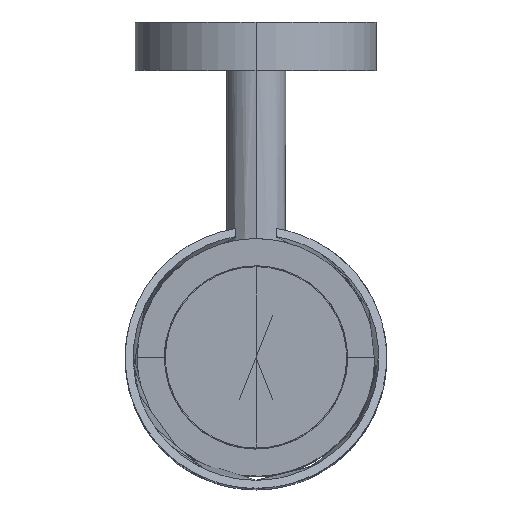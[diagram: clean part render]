
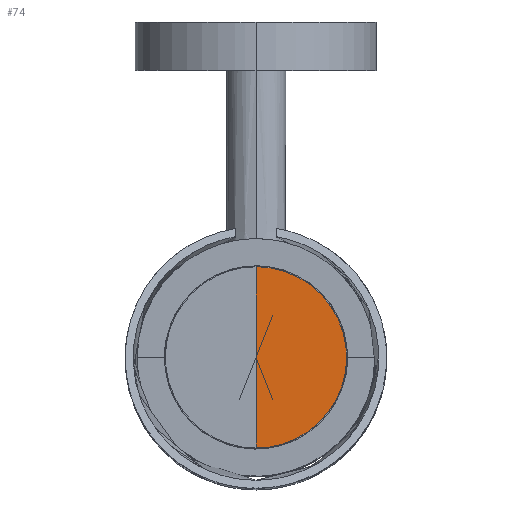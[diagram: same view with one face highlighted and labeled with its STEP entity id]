
A CAD part, top view. The second image highlights one B-rep face of the part: STEP entity #74.
In plain terms, the highlighted free-form (B-spline) face has degree [1, 2] with [2, 5] control points.
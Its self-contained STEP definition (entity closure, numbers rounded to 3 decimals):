
#74=ADVANCED_FACE('',(#335),#7578,.T.);
#335=FACE_OUTER_BOUND('',#596,.T.);
#596=EDGE_LOOP('',(#867,#868,#869));
#867=ORIENTED_EDGE('',*,*,#6356,.T.);
#868=ORIENTED_EDGE('',*,*,#6357,.T.);
#869=ORIENTED_EDGE('',*,*,#6358,.T.);
#2029=PCURVE('',#7578,#3191);
#2030=PCURVE('',#7578,#3192);
#2031=PCURVE('',#7578,#3193);
#2032=PCURVE('',#7579,#3194);
#2047=PCURVE('',#7583,#3209);
#2049=PCURVE('',#7583,#3211);
#3191=DEFINITIONAL_REPRESENTATION('',(#4356),#18636);
#3192=DEFINITIONAL_REPRESENTATION('',(#4357),#18636);
#3193=DEFINITIONAL_REPRESENTATION('',(#4359),#18636);
#3194=DEFINITIONAL_REPRESENTATION('',(#4360),#18636);
#3209=DEFINITIONAL_REPRESENTATION('',(#4381),#18636);
#3211=DEFINITIONAL_REPRESENTATION('',(#4383),#18636);
#4355=B_SPLINE_CURVE_WITH_KNOTS('',1,(#8030,#8031),.UNSPECIFIED.,.F.,.F.,
(2,2),(-28.65,-6.15),.UNSPECIFIED.);
#4356=B_SPLINE_CURVE_WITH_KNOTS('',1,(#8032,#8033),.UNSPECIFIED.,.F.,.F.,
(2,2),(-28.65,-6.15),.UNSPECIFIED.);
#4357=B_SPLINE_CURVE_WITH_KNOTS('',1,(#8039,#8040),.UNSPECIFIED.,.F.,.F.,
(2,2),(0.,30.15),.UNSPECIFIED.);
#4358=B_SPLINE_CURVE_WITH_KNOTS('',1,(#8041,#8042),.UNSPECIFIED.,.F.,.F.,
(2,2),(6.15,28.65),.UNSPECIFIED.);
#4359=B_SPLINE_CURVE_WITH_KNOTS('',1,(#8043,#8044),.UNSPECIFIED.,.F.,.F.,
(2,2),(6.15,28.65),.UNSPECIFIED.);
#4360=B_SPLINE_CURVE_WITH_KNOTS('',1,(#8045,#8046),.UNSPECIFIED.,.F.,.F.,
(2,2),(0.,30.15),.UNSPECIFIED.);
#4381=B_SPLINE_CURVE_WITH_KNOTS('',1,(#8102,#8103),.UNSPECIFIED.,.F.,.F.,
(2,2),(6.15,28.65),.UNSPECIFIED.);
#4383=B_SPLINE_CURVE_WITH_KNOTS('',1,(#8111,#8112),.UNSPECIFIED.,.F.,.F.,
(2,2),(-28.65,-6.15),.UNSPECIFIED.);
#5775=SURFACE_CURVE('',#4355,(#2029,#2049),.PCURVE_S1.);
#5776=SURFACE_CURVE('',#6935,(#2030,#2032),.PCURVE_S1.);
#5777=SURFACE_CURVE('',#4358,(#2031,#2047),.PCURVE_S1.);
#6356=EDGE_CURVE('',#7255,#7260,#5775,.T.);
#6357=EDGE_CURVE('',#7260,#7262,#5776,.T.);
#6358=EDGE_CURVE('',#7262,#7255,#5777,.T.);
#6935=(
BOUNDED_CURVE()
B_SPLINE_CURVE(2,(#8034,#8035,#8036,#8037,#8038),.UNSPECIFIED.,.F.,.F.)
B_SPLINE_CURVE_WITH_KNOTS((3,2,3),(0.,15.075,30.15),
 .UNSPECIFIED.)
CURVE()
GEOMETRIC_REPRESENTATION_ITEM()
RATIONAL_B_SPLINE_CURVE((1.,0.707,1.,0.707,1.))
REPRESENTATION_ITEM('')
);
#7255=VERTEX_POINT('',#8005);
#7260=VERTEX_POINT('',#8010);
#7262=VERTEX_POINT('',#8012);
#7578=(
BOUNDED_SURFACE()
B_SPLINE_SURFACE(1,2,((#7915,#7916,#7917,#7918,#7919),(#7920,#7921,#7922,
#7923,#7924)),.UNSPECIFIED.,.F.,.F.,.F.)
B_SPLINE_SURFACE_WITH_KNOTS((2,2),(3,2,3),(-28.65,-6.15),
(0.,15.075,30.15),.UNSPECIFIED.)
GEOMETRIC_REPRESENTATION_ITEM()
RATIONAL_B_SPLINE_SURFACE(((1.,0.707,1.,0.707,1.),
(1.,0.707,1.,0.707,1.)))
REPRESENTATION_ITEM('')
SURFACE()
);
#7579=(
BOUNDED_SURFACE()
B_SPLINE_SURFACE(1,2,((#7925,#7926,#7927,#7928,#7929),(#7930,#7931,#7932,
#7933,#7934)),.UNSPECIFIED.,.F.,.F.,.F.)
B_SPLINE_SURFACE_WITH_KNOTS((2,2),(3,2,3),(-6.15,-3.65),
(0.,15.075,30.15),.UNSPECIFIED.)
GEOMETRIC_REPRESENTATION_ITEM()
RATIONAL_B_SPLINE_SURFACE(((1.,0.707,1.,0.707,1.),
(1.,0.707,1.,0.707,1.)))
REPRESENTATION_ITEM('')
SURFACE()
);
#7583=(
BOUNDED_SURFACE()
B_SPLINE_SURFACE(1,2,((#7965,#7966,#7967,#7968,#7969),(#7970,#7971,#7972,
#7973,#7974)),.UNSPECIFIED.,.F.,.F.,.F.)
B_SPLINE_SURFACE_WITH_KNOTS((2,2),(3,2,3),(-28.65,-6.15),
(30.15,45.225,60.3),.UNSPECIFIED.)
GEOMETRIC_REPRESENTATION_ITEM()
RATIONAL_B_SPLINE_SURFACE(((1.,0.707,1.,0.707,1.),
(1.,0.707,1.,0.707,1.)))
REPRESENTATION_ITEM('')
SURFACE()
);
#7915=CARTESIAN_POINT('',(0.,-83.345,59.445));
#7916=CARTESIAN_POINT('',(0.,-83.345,59.445));
#7917=CARTESIAN_POINT('',(0.,-83.345,59.445));
#7918=CARTESIAN_POINT('',(0.,-83.345,59.445));
#7919=CARTESIAN_POINT('',(0.,-83.345,59.445));
#7920=CARTESIAN_POINT('',(0.,-105.845,59.445));
#7921=CARTESIAN_POINT('',(22.5,-105.845,59.445));
#7922=CARTESIAN_POINT('',(22.5,-83.345,59.445));
#7923=CARTESIAN_POINT('',(22.5,-60.845,59.445));
#7924=CARTESIAN_POINT('',(0.,-60.845,59.445));
#7925=CARTESIAN_POINT('',(0.,-105.845,59.445));
#7926=CARTESIAN_POINT('',(22.5,-105.845,59.445));
#7927=CARTESIAN_POINT('',(22.5,-83.345,59.445));
#7928=CARTESIAN_POINT('',(22.5,-60.845,59.445));
#7929=CARTESIAN_POINT('',(0.,-60.845,59.445));
#7930=CARTESIAN_POINT('',(0.,-105.845,56.945));
#7931=CARTESIAN_POINT('',(22.5,-105.845,56.945));
#7932=CARTESIAN_POINT('',(22.5,-83.345,56.945));
#7933=CARTESIAN_POINT('',(22.5,-60.845,56.945));
#7934=CARTESIAN_POINT('',(0.,-60.845,56.945));
#7965=CARTESIAN_POINT('',(0.,-83.345,59.445));
#7966=CARTESIAN_POINT('',(0.,-83.345,59.445));
#7967=CARTESIAN_POINT('',(0.,-83.345,59.445));
#7968=CARTESIAN_POINT('',(0.,-83.345,59.445));
#7969=CARTESIAN_POINT('',(0.,-83.345,59.445));
#7970=CARTESIAN_POINT('',(0.,-60.845,59.445));
#7971=CARTESIAN_POINT('',(-22.5,-60.845,59.445));
#7972=CARTESIAN_POINT('',(-22.5,-83.345,59.445));
#7973=CARTESIAN_POINT('',(-22.5,-105.845,59.445));
#7974=CARTESIAN_POINT('',(0.,-105.845,59.445));
#8005=CARTESIAN_POINT('',(0.,-83.345,59.445));
#8010=CARTESIAN_POINT('',(0.,-105.845,59.445));
#8012=CARTESIAN_POINT('',(0.,-60.845,59.445));
#8030=CARTESIAN_POINT('',(0.,-83.345,59.445));
#8031=CARTESIAN_POINT('',(0.,-105.845,59.445));
#8032=CARTESIAN_POINT('',(-28.65,0.));
#8033=CARTESIAN_POINT('',(-6.15,0.));
#8034=CARTESIAN_POINT('',(0.,-105.845,59.445));
#8035=CARTESIAN_POINT('',(22.5,-105.845,59.445));
#8036=CARTESIAN_POINT('',(22.5,-83.345,59.445));
#8037=CARTESIAN_POINT('',(22.5,-60.845,59.445));
#8038=CARTESIAN_POINT('',(0.,-60.845,59.445));
#8039=CARTESIAN_POINT('',(-6.15,0.));
#8040=CARTESIAN_POINT('',(-6.15,30.15));
#8041=CARTESIAN_POINT('',(0.,-60.845,59.445));
#8042=CARTESIAN_POINT('',(0.,-83.345,59.445));
#8043=CARTESIAN_POINT('',(-6.15,30.15));
#8044=CARTESIAN_POINT('',(-28.65,30.15));
#8045=CARTESIAN_POINT('',(-6.15,0.));
#8046=CARTESIAN_POINT('',(-6.15,30.15));
#8102=CARTESIAN_POINT('',(-6.15,30.15));
#8103=CARTESIAN_POINT('',(-28.65,30.15));
#8111=CARTESIAN_POINT('',(-28.65,60.3));
#8112=CARTESIAN_POINT('',(-6.15,60.3));
#18636=(
GEOMETRIC_REPRESENTATION_CONTEXT(2)
PARAMETRIC_REPRESENTATION_CONTEXT()
REPRESENTATION_CONTEXT('pspace','')
);
